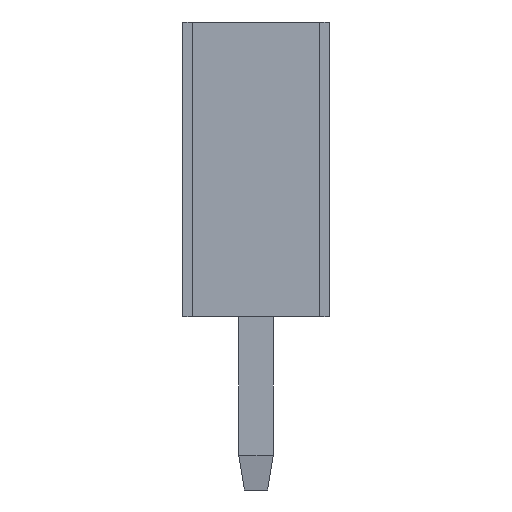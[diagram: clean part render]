
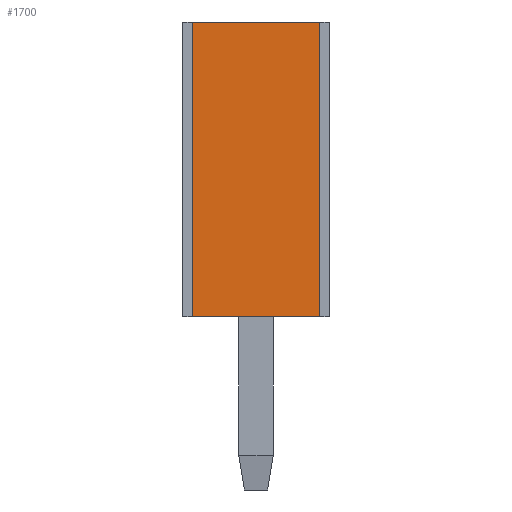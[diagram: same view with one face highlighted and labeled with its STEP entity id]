
A CAD part, left-side view. The second image highlights one B-rep face of the part: STEP entity #1700.
In plain terms, the highlighted planar face has unit normal (-1, 0, 0).
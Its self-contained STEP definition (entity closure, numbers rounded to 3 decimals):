
#708 = PLANE('',#709);
#709 = AXIS2_PLACEMENT_3D('',#710,#711,#712);
#710 = CARTESIAN_POINT('',(0.,0.17,5.1));
#711 = DIRECTION('',(0.,0.,1.));
#712 = DIRECTION('',(1.,0.,0.));
#1147 = VERTEX_POINT('',#1148);
#1148 = CARTESIAN_POINT('',(0.,2.37,5.1));
#1162 = PLANE('',#1163);
#1163 = AXIS2_PLACEMENT_3D('',#1164,#1165,#1166);
#1164 = CARTESIAN_POINT('',(0.,2.37,0.));
#1165 = DIRECTION('',(0.,1.,0.));
#1166 = DIRECTION('',(0.,0.,1.));
#1174 = EDGE_CURVE('',#1175,#1147,#1177,.T.);
#1175 = VERTEX_POINT('',#1176);
#1176 = CARTESIAN_POINT('',(0.,0.17,5.1));
#1177 = SURFACE_CURVE('',#1178,(#1182,#1189),.PCURVE_S1.);
#1178 = LINE('',#1179,#1180);
#1179 = CARTESIAN_POINT('',(0.,0.17,5.1));
#1180 = VECTOR('',#1181,1.);
#1181 = DIRECTION('',(0.,1.,0.));
#1182 = PCURVE('',#708,#1183);
#1183 = DEFINITIONAL_REPRESENTATION('',(#1184),#1188);
#1184 = LINE('',#1185,#1186);
#1185 = CARTESIAN_POINT('',(0.,0.));
#1186 = VECTOR('',#1187,1.);
#1187 = DIRECTION('',(0.,1.));
#1188 = ( GEOMETRIC_REPRESENTATION_CONTEXT(2) 
PARAMETRIC_REPRESENTATION_CONTEXT() REPRESENTATION_CONTEXT('2D SPACE',''
  ) );
#1189 = PCURVE('',#1190,#1195);
#1190 = PLANE('',#1191);
#1191 = AXIS2_PLACEMENT_3D('',#1192,#1193,#1194);
#1192 = CARTESIAN_POINT('',(0.,0.17,0.));
#1193 = DIRECTION('',(1.,0.,0.));
#1194 = DIRECTION('',(0.,0.,1.));
#1195 = DEFINITIONAL_REPRESENTATION('',(#1196),#1200);
#1196 = LINE('',#1197,#1198);
#1197 = CARTESIAN_POINT('',(5.1,0.));
#1198 = VECTOR('',#1199,1.);
#1199 = DIRECTION('',(0.,-1.));
#1200 = ( GEOMETRIC_REPRESENTATION_CONTEXT(2) 
PARAMETRIC_REPRESENTATION_CONTEXT() REPRESENTATION_CONTEXT('2D SPACE',''
  ) );
#1216 = PLANE('',#1217);
#1217 = AXIS2_PLACEMENT_3D('',#1218,#1219,#1220);
#1218 = CARTESIAN_POINT('',(0.,0.17,0.));
#1219 = DIRECTION('',(0.,1.,0.));
#1220 = DIRECTION('',(0.,0.,1.));
#1582 = VERTEX_POINT('',#1583);
#1583 = CARTESIAN_POINT('',(0.,2.37,0.));
#1597 = PLANE('',#1598);
#1598 = AXIS2_PLACEMENT_3D('',#1599,#1600,#1601);
#1599 = CARTESIAN_POINT('',(0.,0.17,0.));
#1600 = DIRECTION('',(0.,0.,1.));
#1601 = DIRECTION('',(1.,0.,0.));
#1609 = EDGE_CURVE('',#1582,#1147,#1610,.T.);
#1610 = SURFACE_CURVE('',#1611,(#1615,#1622),.PCURVE_S1.);
#1611 = LINE('',#1612,#1613);
#1612 = CARTESIAN_POINT('',(0.,2.37,0.));
#1613 = VECTOR('',#1614,1.);
#1614 = DIRECTION('',(0.,0.,1.));
#1615 = PCURVE('',#1162,#1616);
#1616 = DEFINITIONAL_REPRESENTATION('',(#1617),#1621);
#1617 = LINE('',#1618,#1619);
#1618 = CARTESIAN_POINT('',(0.,0.));
#1619 = VECTOR('',#1620,1.);
#1620 = DIRECTION('',(1.,0.));
#1621 = ( GEOMETRIC_REPRESENTATION_CONTEXT(2) 
PARAMETRIC_REPRESENTATION_CONTEXT() REPRESENTATION_CONTEXT('2D SPACE',''
  ) );
#1622 = PCURVE('',#1190,#1623);
#1623 = DEFINITIONAL_REPRESENTATION('',(#1624),#1628);
#1624 = LINE('',#1625,#1626);
#1625 = CARTESIAN_POINT('',(0.,-2.2));
#1626 = VECTOR('',#1627,1.);
#1627 = DIRECTION('',(1.,0.));
#1628 = ( GEOMETRIC_REPRESENTATION_CONTEXT(2) 
PARAMETRIC_REPRESENTATION_CONTEXT() REPRESENTATION_CONTEXT('2D SPACE',''
  ) );
#1636 = VERTEX_POINT('',#1637);
#1637 = CARTESIAN_POINT('',(0.,0.17,0.));
#1660 = EDGE_CURVE('',#1636,#1175,#1661,.T.);
#1661 = SURFACE_CURVE('',#1662,(#1666,#1673),.PCURVE_S1.);
#1662 = LINE('',#1663,#1664);
#1663 = CARTESIAN_POINT('',(0.,0.17,0.));
#1664 = VECTOR('',#1665,1.);
#1665 = DIRECTION('',(0.,0.,1.));
#1666 = PCURVE('',#1216,#1667);
#1667 = DEFINITIONAL_REPRESENTATION('',(#1668),#1672);
#1668 = LINE('',#1669,#1670);
#1669 = CARTESIAN_POINT('',(0.,0.));
#1670 = VECTOR('',#1671,1.);
#1671 = DIRECTION('',(1.,0.));
#1672 = ( GEOMETRIC_REPRESENTATION_CONTEXT(2) 
PARAMETRIC_REPRESENTATION_CONTEXT() REPRESENTATION_CONTEXT('2D SPACE',''
  ) );
#1673 = PCURVE('',#1190,#1674);
#1674 = DEFINITIONAL_REPRESENTATION('',(#1675),#1679);
#1675 = LINE('',#1676,#1677);
#1676 = CARTESIAN_POINT('',(0.,0.));
#1677 = VECTOR('',#1678,1.);
#1678 = DIRECTION('',(1.,0.));
#1679 = ( GEOMETRIC_REPRESENTATION_CONTEXT(2) 
PARAMETRIC_REPRESENTATION_CONTEXT() REPRESENTATION_CONTEXT('2D SPACE',''
  ) );
#1700 = ADVANCED_FACE('',(#1701),#1190,.F.);
#1701 = FACE_BOUND('',#1702,.F.);
#1702 = EDGE_LOOP('',(#1703,#1704,#1725,#1726));
#1703 = ORIENTED_EDGE('',*,*,#1660,.F.);
#1704 = ORIENTED_EDGE('',*,*,#1705,.T.);
#1705 = EDGE_CURVE('',#1636,#1582,#1706,.T.);
#1706 = SURFACE_CURVE('',#1707,(#1711,#1718),.PCURVE_S1.);
#1707 = LINE('',#1708,#1709);
#1708 = CARTESIAN_POINT('',(0.,0.17,0.));
#1709 = VECTOR('',#1710,1.);
#1710 = DIRECTION('',(0.,1.,0.));
#1711 = PCURVE('',#1190,#1712);
#1712 = DEFINITIONAL_REPRESENTATION('',(#1713),#1717);
#1713 = LINE('',#1714,#1715);
#1714 = CARTESIAN_POINT('',(0.,0.));
#1715 = VECTOR('',#1716,1.);
#1716 = DIRECTION('',(0.,-1.));
#1717 = ( GEOMETRIC_REPRESENTATION_CONTEXT(2) 
PARAMETRIC_REPRESENTATION_CONTEXT() REPRESENTATION_CONTEXT('2D SPACE',''
  ) );
#1718 = PCURVE('',#1597,#1719);
#1719 = DEFINITIONAL_REPRESENTATION('',(#1720),#1724);
#1720 = LINE('',#1721,#1722);
#1721 = CARTESIAN_POINT('',(0.,0.));
#1722 = VECTOR('',#1723,1.);
#1723 = DIRECTION('',(0.,1.));
#1724 = ( GEOMETRIC_REPRESENTATION_CONTEXT(2) 
PARAMETRIC_REPRESENTATION_CONTEXT() REPRESENTATION_CONTEXT('2D SPACE',''
  ) );
#1725 = ORIENTED_EDGE('',*,*,#1609,.T.);
#1726 = ORIENTED_EDGE('',*,*,#1174,.F.);
